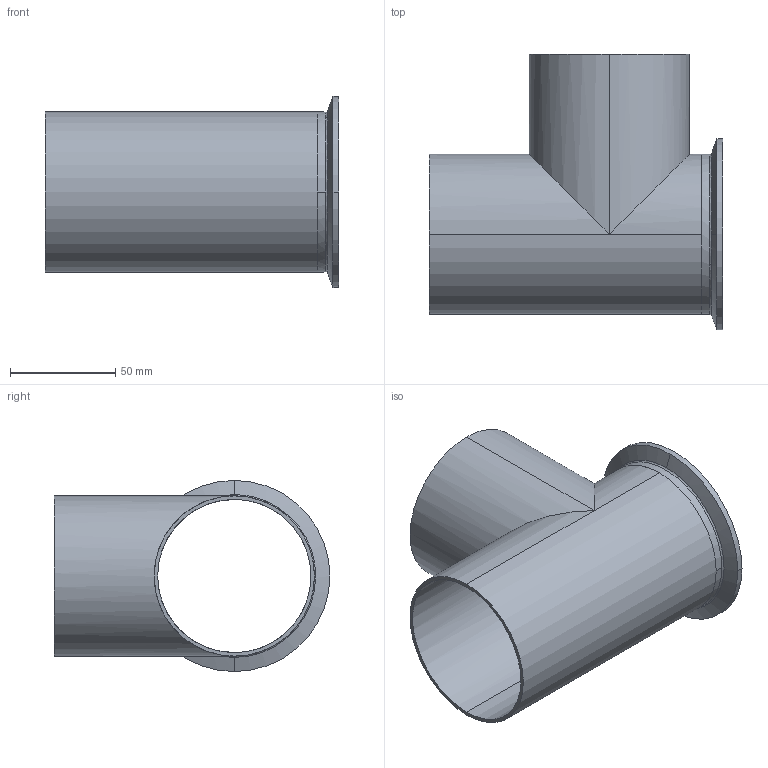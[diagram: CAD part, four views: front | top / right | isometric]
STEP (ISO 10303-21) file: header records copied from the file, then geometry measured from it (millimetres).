
FILE_DESCRIPTION (( 'STEP AP214' ), '1' );
FILE_NAME ('TE7WCSW6L3.0-...STEP', '2016-05-24T11:50:51', ( 'eran' ), ( '' ), 'SwSTEP 2.0', 'SolidWorks 2016', '' );
FILE_SCHEMA (( 'AUTOMOTIVE_DESIGN' ));
Length unit declared in the file: millimetre
Products named in the file (1): TE7WCSW6L3.0-..
Bounding box: 139.7 x 131.15 x 90.91 mm (x, y, z)
Volume: 76278.5 mm3; surface area: 88922.9 mm2
Topology: 2 solids, 2 shells, 38 faces, 94 edges, 60 vertices
Faces by surface type: cylinder 16, bspline 10, plane 6, cone 6
Entity records: 3008 total; most frequent: CARTESIAN_POINT 2075, DIRECTION 188, ORIENTED_EDGE 188, EDGE_CURVE 94, AXIS2_PLACEMENT_3D 82, VERTEX_POINT 60, CIRCLE 53, EDGE_LOOP 44
